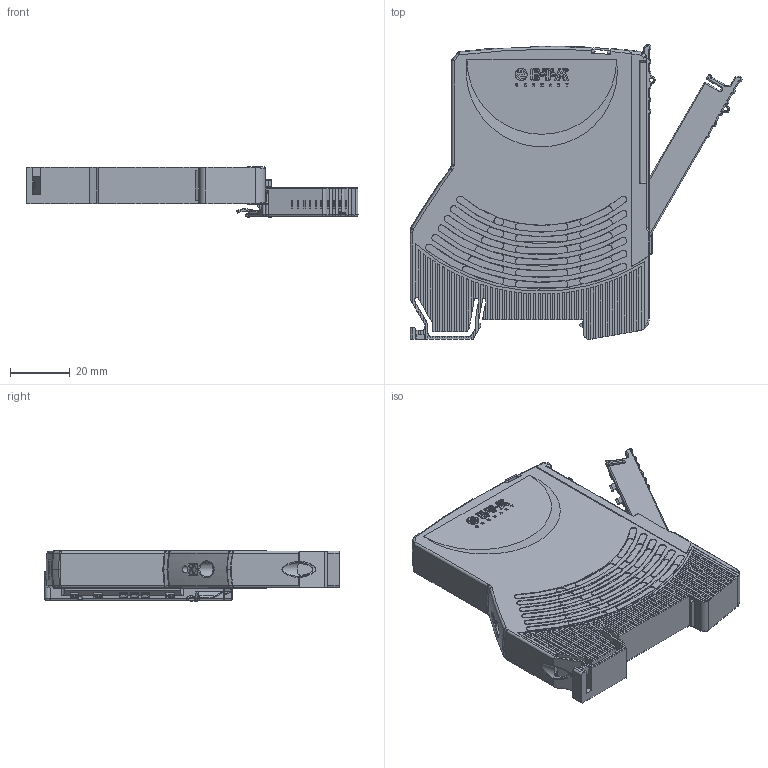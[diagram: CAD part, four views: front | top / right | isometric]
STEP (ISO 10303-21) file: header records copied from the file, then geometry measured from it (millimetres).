
FILE_DESCRIPTION((''),'2;1');
FILE_NAME('T-REX12D-TA1-1XX_ASM','2016-11-02T',('hroth'),(''),'PRO/ENGINEER BY PARAMETRIC TECHNOLOGY CORPORATION, 2014200','PRO/ENGINEER BY PARAMETRIC TECHNOLOGY CORPORATION, 2014200','');
FILE_SCHEMA(('AUTOMOTIVE_DESIGN { 1 0 10303 214 1 1 1 1 }'));
Products named in the file (4): T-REX12-TA1-AXX_GEH; T-REX12-TXX_TASTER; T-REX12-TXX_HEB-SI2; T-REX12D-TA1-1XX_ASM
Assembly tree (4 placements, depth 2):
  T-REX12D-TA1-1XX_ASM
    T-REX12-TA1-AXX_GEH
    T-REX12-TXX_TASTER
    T-REX12-TXX_HEB-SI2  x2
Bounding box: 110.9 x 98.5 x 16.9 mm (x, y, z)
Volume: 80910.8 mm3; surface area: 29725.9 mm2
Topology: 4 solids, 4 shells, 2787 faces, 7602 edges, 4895 vertices
Faces by surface type: plane 1671, cylinder 824, bspline 103, torus 97, extrusion 41, cone 28, sphere 23
Entity records: 86667 total; most frequent: CARTESIAN_POINT 21149, ORIENTED_EDGE 12708, DIRECTION 11983, EDGE_CURVE 6354, VECTOR 4297, LINE 4256, VERTEX_POINT 4126, AXIS2_PLACEMENT_3D 3843
